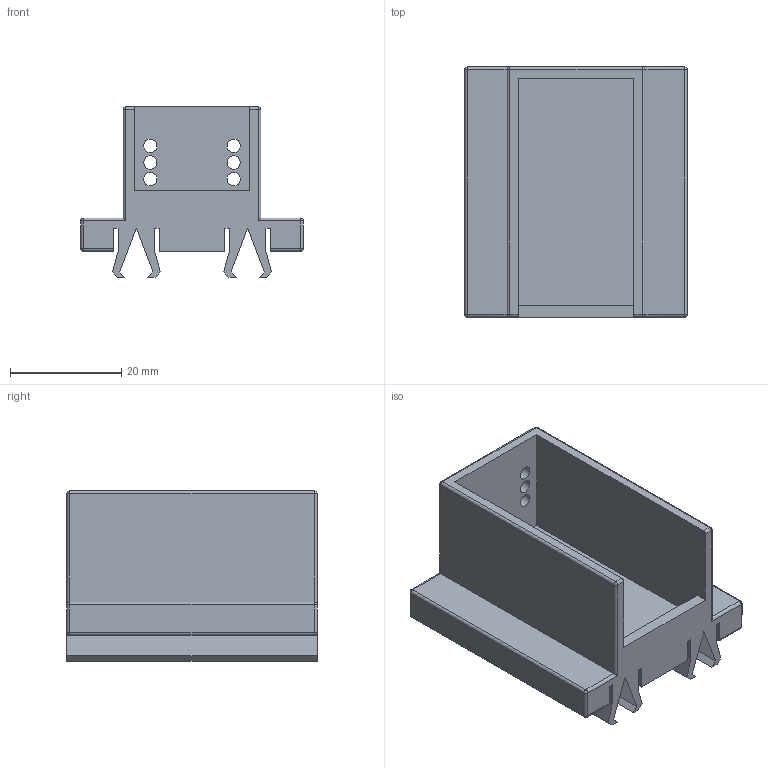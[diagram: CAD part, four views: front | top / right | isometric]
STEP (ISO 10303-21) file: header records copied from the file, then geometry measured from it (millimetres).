
FILE_DESCRIPTION(/* description */ (''),/* implementation_level */ '2;1');
FILE_NAME(/* name */ 'C:/Users/priba/Downloads/mrm-rd-5606hb-300HolderDouble.step',/* time_stamp */ '2022-04-05T09:24:24+02:00',/* author */ (''),/* organization */ (''),/* preprocessor_version */ 'ST-DEVELOPER v18.1',/* originating_system */ 'Autodesk Translation Framework v10.13.0.1454',/* authorisation */ '');
FILE_SCHEMA (('AUTOMOTIVE_DESIGN { 1 0 10303 214 3 1 1 }'));
Length unit declared in the file: millimetre
Products named in the file (1): mrm-rd-5606hb-300HolderDouble
Bounding box: 40 x 45 x 30.61 mm (x, y, z)
Volume: 15397.9 mm3; surface area: 13094.4 mm2
Topology: 1 solids, 1 shells, 96 faces, 242 edges, 148 vertices
Faces by surface type: plane 52, cylinder 32, sphere 12
Full cylindrical faces by diameter (mm): 2.4 x7
Entity records: 2876 total; most frequent: DIRECTION 496, CARTESIAN_POINT 487, ORIENTED_EDGE 484, EDGE_CURVE 242, LINE 182, VECTOR 182, AXIS2_PLACEMENT_3D 157, VERTEX_POINT 148
